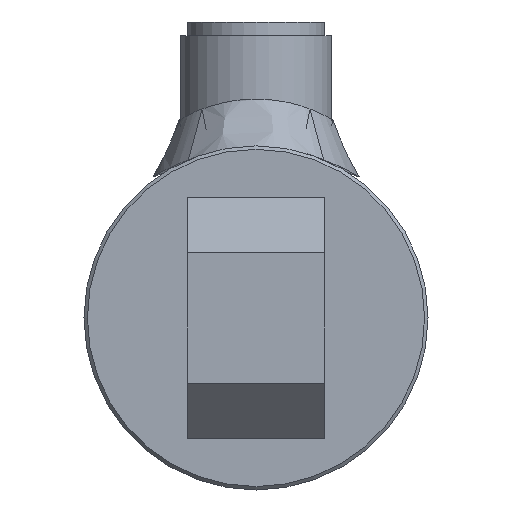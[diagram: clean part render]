
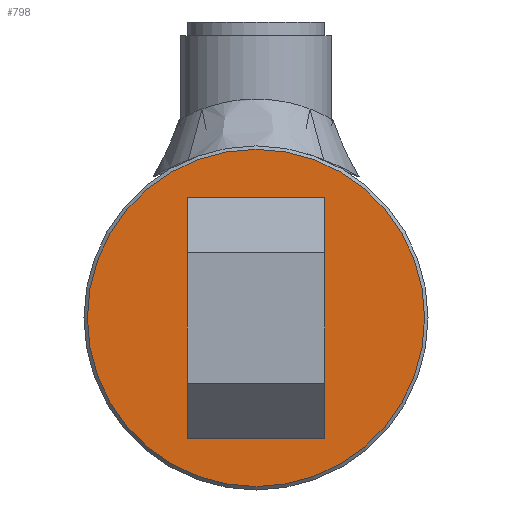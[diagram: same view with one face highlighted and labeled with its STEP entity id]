
A CAD part, left-side view. The second image highlights one B-rep face of the part: STEP entity #798.
In plain terms, the highlighted planar face has unit normal (-1, 0, 0).
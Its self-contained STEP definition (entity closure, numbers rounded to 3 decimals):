
#798 = ADVANCED_FACE( '', ( #1497 ), #1498, .T. );
#1497 = FACE_OUTER_BOUND( '', #2826, .T. );
#1498 = PLANE( '', #2827 );
#2826 = EDGE_LOOP( '', ( #4141 ) );
#2827 = AXIS2_PLACEMENT_3D( '', #4142, #4143, #4144 );
#4141 = ORIENTED_EDGE( '', *, *, #4821, .T. );
#4142 = CARTESIAN_POINT( '', ( -10., 0., 0. ) );
#4143 = DIRECTION( '', ( -1., 0., 0. ) );
#4144 = DIRECTION( '', ( 0., -1., 0. ) );
#4821 = EDGE_CURVE( '', #5672, #5672, #5673, .T. );
#5672 = VERTEX_POINT( '', #6645 );
#5673 = CIRCLE( '', #6646, 24.5 );
#6645 = CARTESIAN_POINT( '', ( -10., -24.5, 0. ) );
#6646 = AXIS2_PLACEMENT_3D( '', #7284, #7285, #7286 );
#7284 = CARTESIAN_POINT( '', ( -10., 0., 0. ) );
#7285 = DIRECTION( '', ( -1., 0., 0. ) );
#7286 = DIRECTION( '', ( 0., -1., 0. ) );
